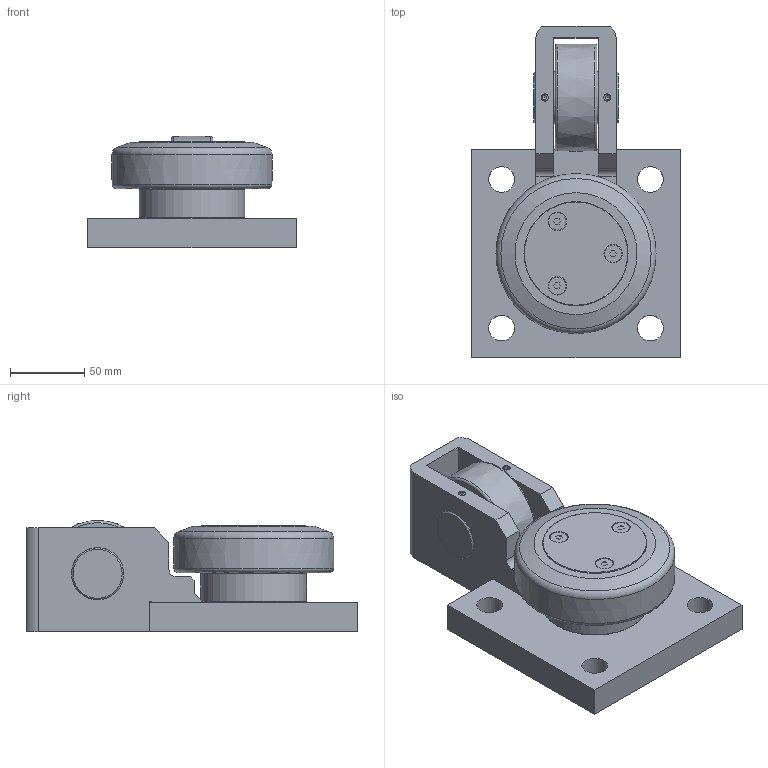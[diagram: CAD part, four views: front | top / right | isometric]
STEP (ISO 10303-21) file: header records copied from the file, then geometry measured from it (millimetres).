
FILE_DESCRIPTION(/* description */ ('-','CAx-IF Rec.Pracs.---Representation and Presentation of Product Manufacturing Information (PMI)---4.0---2014-10-13'),/* implementation_level */ '2;1');
FILE_NAME(/* name */ 'c:\temp\f38cd7d5-f594-4ec6-9011-f404bba3b45f\dd13a3d5-7343-467a-937e-cc19a2f498be.stp',/* time_stamp */ '2020-04-01T16:24:58+02:00',/* author */ ('-'),/* organization */ ('NTI CADcenter A/S'),/* preprocessor_version */ 'ST-DEVELOPER v18',/* originating_system */ 'Autodesk Inventor 2020',/* authorisation */ '-');
FILE_SCHEMA (('AP242_MANAGED_MODEL_BASED_3D_ENGINEERING_MIM_LF { 1 0 10303 442 1 1 4 }'));
Length unit declared in the file: millimetre
Products named in the file (1): STR 110.6200_Kontur
Bounding box: 140 x 223 x 75 mm (x, y, z)
Volume: 1018638.3 mm3; surface area: 129240.8 mm2
Topology: 2 solids, 2 shells, 129 faces, 344 edges, 235 vertices
Faces by surface type: plane 76, cylinder 29, cone 16, torus 6, bspline 2
Full cylindrical faces by diameter (mm): 4.917 x4, 11.7 x3, 12.4 x3, 17.294 x4, 35 x4, 35.1 x2, 70 x1, 70.5 x1, 71 x1
Entity records: 4241 total; most frequent: CARTESIAN_POINT 849, DIRECTION 711, ORIENTED_EDGE 684, EDGE_CURVE 342, AXIS2_PLACEMENT_3D 255, VERTEX_POINT 235, LINE 201, VECTOR 201
